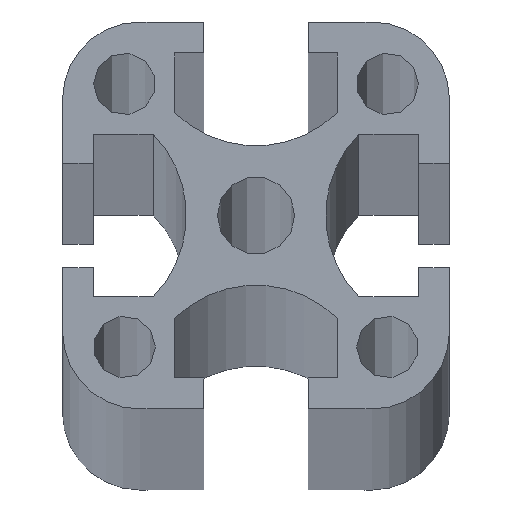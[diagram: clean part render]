
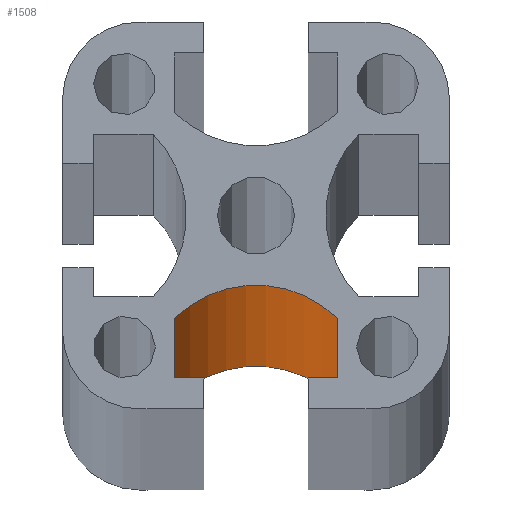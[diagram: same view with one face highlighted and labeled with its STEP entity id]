
A CAD part, top view. The second image highlights one B-rep face of the part: STEP entity #1508.
In plain terms, the highlighted cylindrical face has radius 7.5 mm (diameter 15 mm), a partial arc.
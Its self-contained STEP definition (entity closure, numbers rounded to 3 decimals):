
#2 = VERTEX_POINT ( 'NONE', #1407 ) ;
#6 = VERTEX_POINT ( 'NONE', #819 ) ;
#8 = VERTEX_POINT ( 'NONE', #823 ) ;
#55 = CARTESIAN_POINT ( 'NONE',  ( -5.25, -6.644, -3000. ) ) ;
#146 = ORIENTED_EDGE ( 'NONE', *, *, #954, .F. ) ;
#148 = ORIENTED_EDGE ( 'NONE', *, *, #952, .T. ) ;
#156 = ORIENTED_EDGE ( 'NONE', *, *, #958, .T. ) ;
#275 = ORIENTED_EDGE ( 'NONE', *, *, #957, .F. ) ;
#527 = CIRCLE ( 'NONE', #974, 7.5 ) ;
#528 = LINE ( 'NONE', #1519, #529 ) ;
#529 = VECTOR ( 'NONE', #1520, 1000. ) ;
#530 = CIRCLE ( 'NONE', #973, 7.5 ) ;
#535 = LINE ( 'NONE', #1563, #538 ) ;
#538 = VECTOR ( 'NONE', #1565, 1000. ) ;
#819 = CARTESIAN_POINT ( 'NONE',  ( 5.25, -6.644, 0. ) ) ;
#823 = CARTESIAN_POINT ( 'NONE',  ( 5.25, -6.644, -3000. ) ) ;
#832 = EDGE_LOOP ( 'NONE', ( #146, #275, #156, #148 ) ) ;
#952 = EDGE_CURVE ( 'NONE', #8, #6, #528, .T. ) ;
#954 = EDGE_CURVE ( 'NONE', #2, #6, #530, .T. ) ;
#957 = EDGE_CURVE ( 'NONE', #1155, #2, #535, .T. ) ;
#958 = EDGE_CURVE ( 'NONE', #1155, #8, #527, .T. ) ;
#973 = AXIS2_PLACEMENT_3D ( 'NONE', #1524, #1525, #1558 ) ;
#974 = AXIS2_PLACEMENT_3D ( 'NONE', #1568, #1569, #1570 ) ;
#1057 = AXIS2_PLACEMENT_3D ( 'NONE', #1321, #1320, #1313 ) ;
#1155 = VERTEX_POINT ( 'NONE', #55 ) ;
#1313 = DIRECTION ( 'NONE',  ( 1., 0., 0. ) ) ;
#1320 = DIRECTION ( 'NONE',  ( 0., 0., 1. ) ) ;
#1321 = CARTESIAN_POINT ( 'NONE',  ( 0., -12., -3000. ) ) ;
#1378 = FACE_OUTER_BOUND ( 'NONE', #832, .T. ) ;
#1382 = CYLINDRICAL_SURFACE ( 'NONE', #1057, 7.5 ) ;
#1407 = CARTESIAN_POINT ( 'NONE',  ( -5.25, -6.644, 0. ) ) ;
#1508 = ADVANCED_FACE ( 'NONE', ( #1378 ), #1382, .F. ) ;
#1519 = CARTESIAN_POINT ( 'NONE',  ( 5.25, -6.644, -3000. ) ) ;
#1520 = DIRECTION ( 'NONE',  ( 0., 0., 1. ) ) ;
#1524 = CARTESIAN_POINT ( 'NONE',  ( 0., -12., 0. ) ) ;
#1525 = DIRECTION ( 'NONE',  ( 0., 0., -1. ) ) ;
#1558 = DIRECTION ( 'NONE',  ( -1., 0., 0. ) ) ;
#1563 = CARTESIAN_POINT ( 'NONE',  ( -5.25, -6.644, -3000. ) ) ;
#1565 = DIRECTION ( 'NONE',  ( 0., 0., 1. ) ) ;
#1568 = CARTESIAN_POINT ( 'NONE',  ( 0., -12., -3000. ) ) ;
#1569 = DIRECTION ( 'NONE',  ( 0., 0., -1. ) ) ;
#1570 = DIRECTION ( 'NONE',  ( -1., 0., 0. ) ) ;
